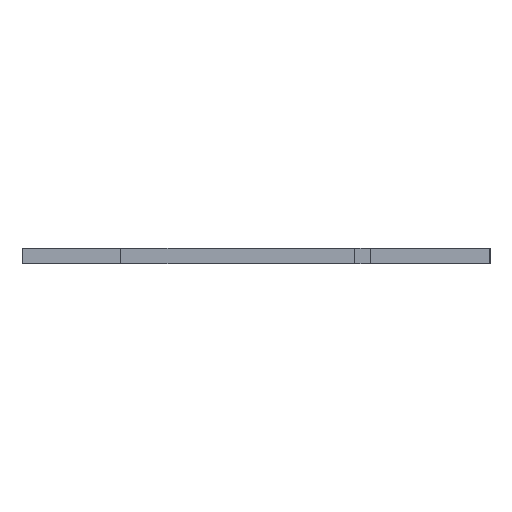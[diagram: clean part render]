
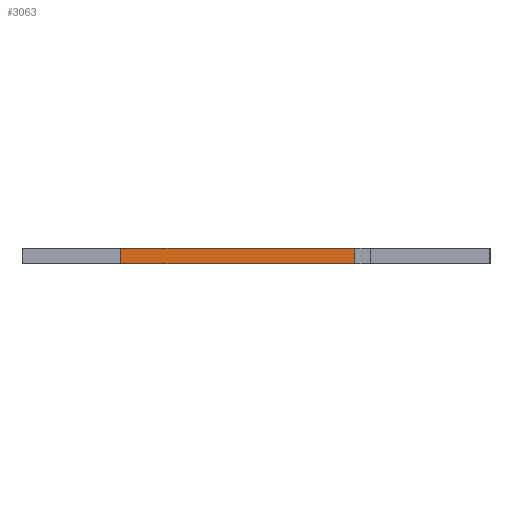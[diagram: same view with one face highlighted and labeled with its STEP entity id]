
A CAD part, left-side view. The second image highlights one B-rep face of the part: STEP entity #3063.
In plain terms, the highlighted planar face has unit normal (-1, 0, 0).
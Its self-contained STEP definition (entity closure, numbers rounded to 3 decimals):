
#160 = VERTEX_POINT('',#161);
#161 = CARTESIAN_POINT('',(26.5,-47.,0.));
#167 = EDGE_CURVE('',#168,#160,#170,.T.);
#168 = VERTEX_POINT('',#169);
#169 = CARTESIAN_POINT('',(26.5,-69.5,0.));
#170 = LINE('',#171,#172);
#171 = CARTESIAN_POINT('',(26.5,-69.5,0.));
#172 = VECTOR('',#173,1.);
#173 = DIRECTION('',(0.,1.,0.));
#1572 = VERTEX_POINT('',#1573);
#1573 = CARTESIAN_POINT('',(26.5,-47.,1.51));
#1579 = EDGE_CURVE('',#1580,#1572,#1582,.T.);
#1580 = VERTEX_POINT('',#1581);
#1581 = CARTESIAN_POINT('',(26.5,-69.5,1.51));
#1582 = LINE('',#1583,#1584);
#1583 = CARTESIAN_POINT('',(26.5,-69.5,1.51));
#1584 = VECTOR('',#1585,1.);
#1585 = DIRECTION('',(0.,1.,0.));
#3033 = EDGE_CURVE('',#160,#1572,#3034,.T.);
#3034 = LINE('',#3035,#3036);
#3035 = CARTESIAN_POINT('',(26.5,-47.,0.));
#3036 = VECTOR('',#3037,1.);
#3037 = DIRECTION('',(0.,0.,1.));
#3063 = ADVANCED_FACE('',(#3064),#3075,.T.);
#3064 = FACE_BOUND('',#3065,.T.);
#3065 = EDGE_LOOP('',(#3066,#3072,#3073,#3074));
#3066 = ORIENTED_EDGE('',*,*,#3067,.T.);
#3067 = EDGE_CURVE('',#168,#1580,#3068,.T.);
#3068 = LINE('',#3069,#3070);
#3069 = CARTESIAN_POINT('',(26.5,-69.5,0.));
#3070 = VECTOR('',#3071,1.);
#3071 = DIRECTION('',(0.,0.,1.));
#3072 = ORIENTED_EDGE('',*,*,#1579,.T.);
#3073 = ORIENTED_EDGE('',*,*,#3033,.F.);
#3074 = ORIENTED_EDGE('',*,*,#167,.F.);
#3075 = PLANE('',#3076);
#3076 = AXIS2_PLACEMENT_3D('',#3077,#3078,#3079);
#3077 = CARTESIAN_POINT('',(26.5,-69.5,0.));
#3078 = DIRECTION('',(-1.,0.,0.));
#3079 = DIRECTION('',(0.,1.,0.));
